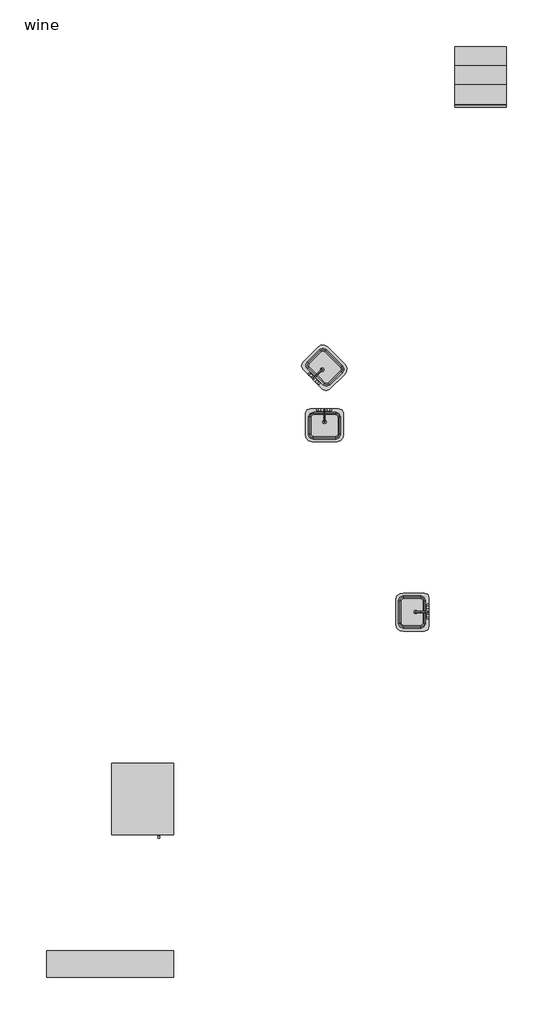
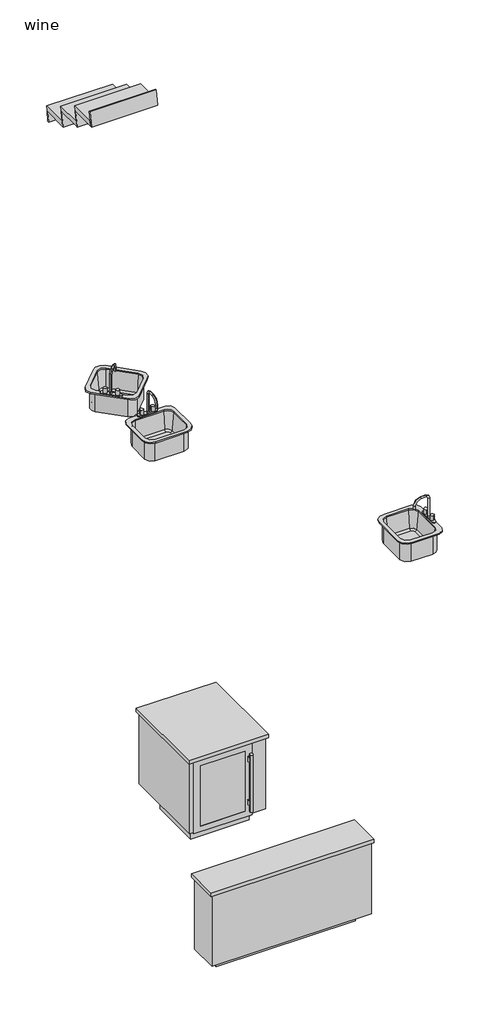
# One storey: 3 flow terminals, 3 proxies, 1 stair flight.
"""IFC4 building model written with IfcOpenShell, lengths in millimetres."""

from ifc_helpers import new_model, si_unit, origin, place, context, project, spatial, transform, mapped, element, save
from components import countertop_rectangle_shape_base_default_1_17d03478, countertop_rectangle_shape_base_default_1_8f285152, wine_under_default_1_0eb686b8, bath_basin_do_not_use_500_x_440mm_22030706, stair_flight_50mm_tread_25mm_nosing_13mm_riser_780a3091

model = new_model("IFC4")

# Units and contexts
model_context = context("Model", 3, world=origin())
ifc_project = project(units=[si_unit("LENGTHUNIT", "METRE", prefix="MILLI")], contexts=[model_context])

# Site, building, storey
site = spatial("IfcSite", under=ifc_project)
building = spatial("IfcBuilding", under=site)
storey = spatial("IfcBuildingStorey", under=building, Name="wine", Elevation=-2133.6)

# Proxies
placement = place(None, origin())
countertop_rectangle_shape_base_default_1_shape = countertop_rectangle_shape_base_default_1_17d03478(model_context)
element("IfcBuildingElementProxy", 1, Name="Countertop- Rectangle shape base : Default 1", ObjectType="Countertop- Rectangle shape base : Default 1", at=placement, inside=storey, context=model_context, shape_type="MappedRepresentation", body=[
    mapped(countertop_rectangle_shape_base_default_1_shape, transform((-3609.975, 2698.75, -2133.6), x_axis=(1.0, 0.0, 0.0), y_axis=(0.0, 1.0, 0.0), z_axis=(0.0, 0.0, 1.0))),
])
countertop_rectangle_shape_base_default_1_2_shape = countertop_rectangle_shape_base_default_1_8f285152(model_context)
element("IfcBuildingElementProxy", 2, Name="Countertop- Rectangle shape base : Default 1", ObjectType="Countertop- Rectangle shape base : Default 1", at=placement, inside=storey, context=model_context, shape_type="MappedRepresentation", body=[
    mapped(countertop_rectangle_shape_base_default_1_2_shape, transform((-4038.6, 523.875, -2133.6), x_axis=(1.0, 0.0, 0.0), y_axis=(0.0, 1.0, 0.0), z_axis=(0.0, 0.0, 1.0))),
])
wine_under_default_1_shape = wine_under_default_1_0eb686b8(model_context)
element("IfcBuildingElementProxy", 3, Name="Wine_Under : Default 1", ObjectType="Wine_Under : Default 1", at=placement, inside=storey, context=model_context, shape_type="MappedRepresentation", body=[
    mapped(wine_under_default_1_shape, transform((-2898.775, 3228.9, -2133.6), x_axis=(1.0, 0.0, 0.0), y_axis=(0.0, 1.0, 0.0), z_axis=(0.0, 0.0, 1.0))),
])

# Flow terminals
bath_basin_do_not_use_500_x_440mm_shape = bath_basin_do_not_use_500_x_440mm_22030706(model_context)
element("IfcFlowTerminal", 4, ObjectType="Bath-Basin DO NOT USE : 500 x 440mm", at=placement, inside=storey, context=model_context, shape_type="MappedRepresentation", body=[
    mapped(bath_basin_do_not_use_500_x_440mm_shape, transform((-465.6892406, 8044.0545989, -2590.8), x_axis=(1.0, 0.0, 0.0), y_axis=(0.0, 1.0, 0.0), z_axis=(0.0, 0.0, 1.0))),
])
element("IfcFlowTerminal", 5, ObjectType="Bath-Basin DO NOT USE : 500 x 440mm", at=placement, inside=storey, context=model_context, shape_type="MappedRepresentation", body=[
    mapped(bath_basin_do_not_use_500_x_440mm_shape, transform((749.045508, 5559.2392406, -2590.8), x_axis=(0.0, -1.0, 0.0), y_axis=(1.0, 0.0, 0.0), z_axis=(0.0, 0.0, 1.0))),
])
element("IfcFlowTerminal", 6, ObjectType="Bath-Basin DO NOT USE : 500 x 440mm", at=placement, inside=storey, context=model_context, shape_type="MappedRepresentation", body=[
    mapped(bath_basin_do_not_use_500_x_440mm_shape, transform((-465.992682, 8725.5519982, -2590.8), x_axis=(-0.7036149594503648, 0.7105814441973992, 0.0), y_axis=(-0.7105814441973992, -0.7036149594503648, 0.0), z_axis=(0.0, 0.0, 1.0))),
])

# Stair flight
stair_flight_50mm_tread_25mm_nosing_13mm_riser_shape = stair_flight_50mm_tread_25mm_nosing_13mm_riser_780a3091(model_context)
element("IfcStairFlight", 7, ObjectType="50mm Tread 25mm Nosing 13mm Riser", at=placement, inside=storey, context=model_context, shape_type="MappedRepresentation", body=[
    mapped(stair_flight_50mm_tread_25mm_nosing_13mm_riser_shape, transform((0.0, 0.0, 0.0), x_axis=(1.0, 0.0, 0.0), y_axis=(0.0, 1.0, 0.0), z_axis=(0.0, 0.0, 1.0))),
])

save(model, "model.ifc")
